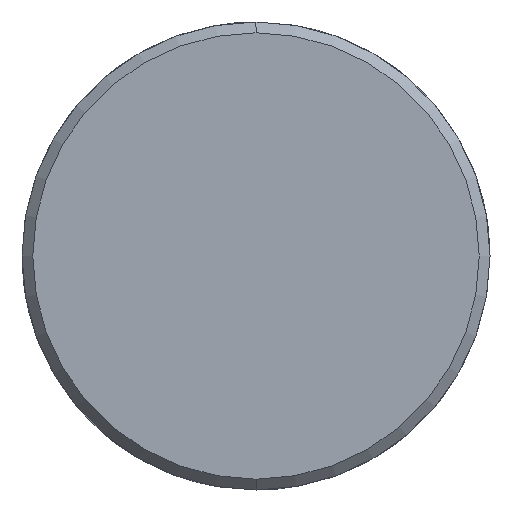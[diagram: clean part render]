
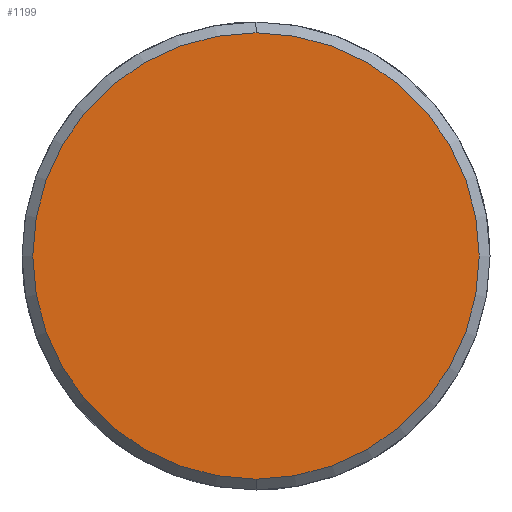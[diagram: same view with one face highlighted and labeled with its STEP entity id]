
A CAD part, left-side view. The second image highlights one B-rep face of the part: STEP entity #1199.
In plain terms, the highlighted planar face has unit normal (-1, 0, 0).
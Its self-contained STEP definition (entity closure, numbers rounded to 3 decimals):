
#1131=CARTESIAN_POINT('Vertex',(-10.,0.,-31.)) ;
#1134=CARTESIAN_POINT('Axis2P3D Location',(-10.,0.,0.)) ;
#1138=CARTESIAN_POINT('Vertex',(-10.,31.,0.)) ;
#1141=CARTESIAN_POINT('Axis2P3D Location',(-10.,0.,0.)) ;
#1145=CARTESIAN_POINT('Vertex',(-10.,0.,31.)) ;
#1167=CARTESIAN_POINT('Axis2P3D Location',(-10.,0.,0.)) ;
#1171=CARTESIAN_POINT('Vertex',(-10.,-31.,0.)) ;
#1174=CARTESIAN_POINT('Axis2P3D Location',(-10.,0.,0.)) ;
#1188=CARTESIAN_POINT('Axis2P3D Location',(-10.,0.,0.)) ;
#1135=DIRECTION('Axis2P3D Direction',(1.,0.,-0.)) ;
#1142=DIRECTION('Axis2P3D Direction',(1.,0.,-0.)) ;
#1168=DIRECTION('Axis2P3D Direction',(1.,0.,-0.)) ;
#1175=DIRECTION('Axis2P3D Direction',(1.,0.,-0.)) ;
#1189=DIRECTION('Axis2P3D Direction',(1.,0.,-0.)) ;
#1190=DIRECTION('Axis2P3D XDirection',(-0.,0.,-1.)) ;
#1136=AXIS2_PLACEMENT_3D('Circle Axis2P3D',#1134,#1135,$) ;
#1143=AXIS2_PLACEMENT_3D('Circle Axis2P3D',#1141,#1142,$) ;
#1169=AXIS2_PLACEMENT_3D('Circle Axis2P3D',#1167,#1168,$) ;
#1176=AXIS2_PLACEMENT_3D('Circle Axis2P3D',#1174,#1175,$) ;
#1191=AXIS2_PLACEMENT_3D('Plane Axis2P3D',#1188,#1189,#1190) ;
#1194=ORIENTED_EDGE('',*,*,#1140,.F.) ;
#1195=ORIENTED_EDGE('',*,*,#1178,.F.) ;
#1196=ORIENTED_EDGE('',*,*,#1173,.F.) ;
#1197=ORIENTED_EDGE('',*,*,#1147,.F.) ;
#1199=ADVANCED_FACE('351-50X96X200',(#1198),#1192,.F.) ;
#1137=CIRCLE('generated circle',#1136,31.) ;
#1144=CIRCLE('generated circle',#1143,31.) ;
#1170=CIRCLE('generated circle',#1169,31.) ;
#1177=CIRCLE('generated circle',#1176,31.) ;
#1140=EDGE_CURVE('',#1132,#1139,#1137,.T.) ;
#1147=EDGE_CURVE('',#1139,#1146,#1144,.T.) ;
#1173=EDGE_CURVE('',#1146,#1172,#1170,.T.) ;
#1178=EDGE_CURVE('',#1172,#1132,#1177,.T.) ;
#1193=EDGE_LOOP('',(#1194,#1195,#1196,#1197)) ;
#1198=FACE_OUTER_BOUND('',#1193,.T.) ;
#1192=PLANE('Plane',#1191) ;
#1132=VERTEX_POINT('',#1131) ;
#1139=VERTEX_POINT('',#1138) ;
#1146=VERTEX_POINT('',#1145) ;
#1172=VERTEX_POINT('',#1171) ;
